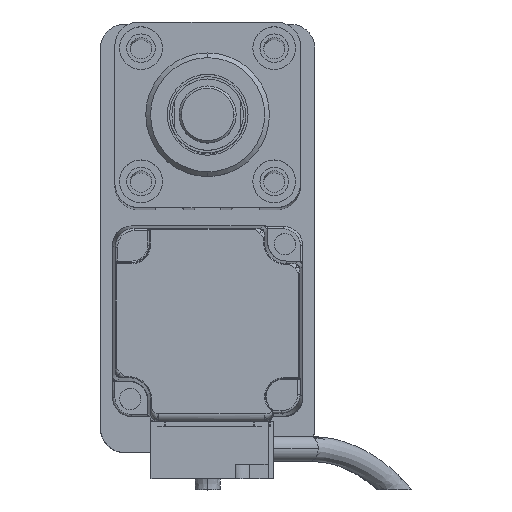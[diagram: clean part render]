
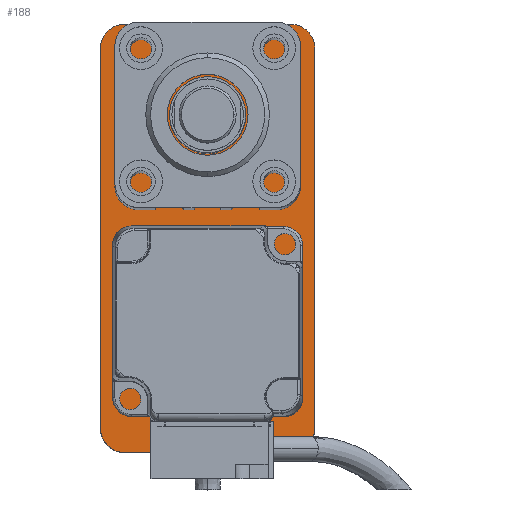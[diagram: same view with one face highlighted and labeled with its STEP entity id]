
A CAD part, top view. The second image highlights one B-rep face of the part: STEP entity #188.
In plain terms, the highlighted planar face has unit normal (0, 0, 1).
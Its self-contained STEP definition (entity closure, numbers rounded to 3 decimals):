
#188 = ADVANCED_FACE ( 'NONE', ( #232 ), #21527, .T. ) ;
#232 = FACE_OUTER_BOUND ( 'NONE', #28411, .T. ) ;
#404 = ORIENTED_EDGE ( 'NONE', *, *, #18872, .T. ) ;
#813 = DIRECTION ( 'NONE',  ( 1., 0., 0. ) ) ;
#2338 = VERTEX_POINT ( 'NONE', #3561 ) ;
#3207 = CARTESIAN_POINT ( 'NONE',  ( 17.5, -45., 10. ) ) ;
#3561 = CARTESIAN_POINT ( 'NONE',  ( 22.5, 40., 10. ) ) ;
#4113 = CARTESIAN_POINT ( 'NONE',  ( -17.5, 45., 10. ) ) ;
#4393 = ORIENTED_EDGE ( 'NONE', *, *, #16445, .T. ) ;
#4603 = LINE ( 'NONE', #26227, #25591 ) ;
#4729 = CIRCLE ( 'NONE', #6843, 5. ) ;
#4874 = VERTEX_POINT ( 'NONE', #10497 ) ;
#5239 = EDGE_CURVE ( 'NONE', #15949, #16169, #12347, .T. ) ;
#5734 = CARTESIAN_POINT ( 'NONE',  ( 17.5, 40., 10. ) ) ;
#6261 = EDGE_CURVE ( 'NONE', #6603, #23433, #4729, .T. ) ;
#6466 = CARTESIAN_POINT ( 'NONE',  ( -17.5, 40., 10. ) ) ;
#6603 = VERTEX_POINT ( 'NONE', #10948 ) ;
#6687 = ORIENTED_EDGE ( 'NONE', *, *, #6261, .T. ) ;
#6843 = AXIS2_PLACEMENT_3D ( 'NONE', #22906, #27679, #13807 ) ;
#7673 = CARTESIAN_POINT ( 'NONE',  ( 17.5, -40., 10. ) ) ;
#7729 = ORIENTED_EDGE ( 'NONE', *, *, #9035, .T. ) ;
#7776 = DIRECTION ( 'NONE',  ( 0., 0., 1. ) ) ;
#8144 = DIRECTION ( 'NONE',  ( 0., 0., 1. ) ) ;
#8699 = DIRECTION ( 'NONE',  ( 0., 0., 1. ) ) ;
#9035 = EDGE_CURVE ( 'NONE', #28079, #27231, #24490, .T. ) ;
#10012 = CARTESIAN_POINT ( 'NONE',  ( 0., 0., 10. ) ) ;
#10400 = AXIS2_PLACEMENT_3D ( 'NONE', #5734, #8144, #17504 ) ;
#10497 = CARTESIAN_POINT ( 'NONE',  ( -22.5, 40., 10. ) ) ;
#10948 = CARTESIAN_POINT ( 'NONE',  ( -22.5, -40., 10. ) ) ;
#12347 = CIRCLE ( 'NONE', #29359, 5. ) ;
#12475 = DIRECTION ( 'NONE',  ( 1., 0., 0. ) ) ;
#13184 = DIRECTION ( 'NONE',  ( 1., 0., 0. ) ) ;
#13807 = DIRECTION ( 'NONE',  ( 1., 0., 0. ) ) ;
#14000 = AXIS2_PLACEMENT_3D ( 'NONE', #6466, #8699, #13184 ) ;
#14134 = ORIENTED_EDGE ( 'NONE', *, *, #5239, .T. ) ;
#14858 = EDGE_CURVE ( 'NONE', #23433, #15949, #4603, .T. ) ;
#15048 = DIRECTION ( 'NONE',  ( 0., -1., 0. ) ) ;
#15763 = VECTOR ( 'NONE', #19603, 1000. ) ;
#15949 = VERTEX_POINT ( 'NONE', #3207 ) ;
#16169 = VERTEX_POINT ( 'NONE', #25064 ) ;
#16445 = EDGE_CURVE ( 'NONE', #16169, #2338, #28792, .T. ) ;
#17504 = DIRECTION ( 'NONE',  ( 1., 0., 0. ) ) ;
#17767 = ORIENTED_EDGE ( 'NONE', *, *, #22860, .T. ) ;
#18309 = CARTESIAN_POINT ( 'NONE',  ( 17.5, 45., 10. ) ) ;
#18563 = LINE ( 'NONE', #19782, #28689 ) ;
#18872 = EDGE_CURVE ( 'NONE', #27231, #4874, #27412, .T. ) ;
#19603 = DIRECTION ( 'NONE',  ( 0., 1., 0. ) ) ;
#19782 = CARTESIAN_POINT ( 'NONE',  ( -22.5, -45., 10. ) ) ;
#20349 = CARTESIAN_POINT ( 'NONE',  ( 22.5, 45., 10. ) ) ;
#21527 = PLANE ( 'NONE',  #23045 ) ;
#21694 = CARTESIAN_POINT ( 'NONE',  ( 22.5, -45., 10. ) ) ;
#22860 = EDGE_CURVE ( 'NONE', #4874, #6603, #18563, .T. ) ;
#22906 = CARTESIAN_POINT ( 'NONE',  ( -17.5, -40., 10. ) ) ;
#23045 = AXIS2_PLACEMENT_3D ( 'NONE', #10012, #26208, #28749 ) ;
#23433 = VERTEX_POINT ( 'NONE', #28438 ) ;
#23531 = EDGE_CURVE ( 'NONE', #2338, #28079, #26125, .T. ) ;
#24161 = ORIENTED_EDGE ( 'NONE', *, *, #14858, .T. ) ;
#24490 = LINE ( 'NONE', #20349, #29915 ) ;
#25064 = CARTESIAN_POINT ( 'NONE',  ( 22.5, -40., 10. ) ) ;
#25591 = VECTOR ( 'NONE', #813, 1000. ) ;
#26125 = CIRCLE ( 'NONE', #10400, 5. ) ;
#26208 = DIRECTION ( 'NONE',  ( 0., 0., 1. ) ) ;
#26227 = CARTESIAN_POINT ( 'NONE',  ( 22.5, -45., 10. ) ) ;
#26851 = ORIENTED_EDGE ( 'NONE', *, *, #23531, .T. ) ;
#27231 = VERTEX_POINT ( 'NONE', #4113 ) ;
#27412 = CIRCLE ( 'NONE', #14000, 5. ) ;
#27679 = DIRECTION ( 'NONE',  ( 0., 0., 1. ) ) ;
#28079 = VERTEX_POINT ( 'NONE', #18309 ) ;
#28411 = EDGE_LOOP ( 'NONE', ( #4393, #26851, #7729, #404, #17767, #6687, #24161, #14134 ) ) ;
#28438 = CARTESIAN_POINT ( 'NONE',  ( -17.5, -45., 10. ) ) ;
#28689 = VECTOR ( 'NONE', #15048, 1000. ) ;
#28749 = DIRECTION ( 'NONE',  ( 1., 0., 0. ) ) ;
#28792 = LINE ( 'NONE', #21694, #15763 ) ;
#29359 = AXIS2_PLACEMENT_3D ( 'NONE', #7673, #7776, #12475 ) ;
#29397 = DIRECTION ( 'NONE',  ( -1., 0., 0. ) ) ;
#29915 = VECTOR ( 'NONE', #29397, 1000. ) ;
